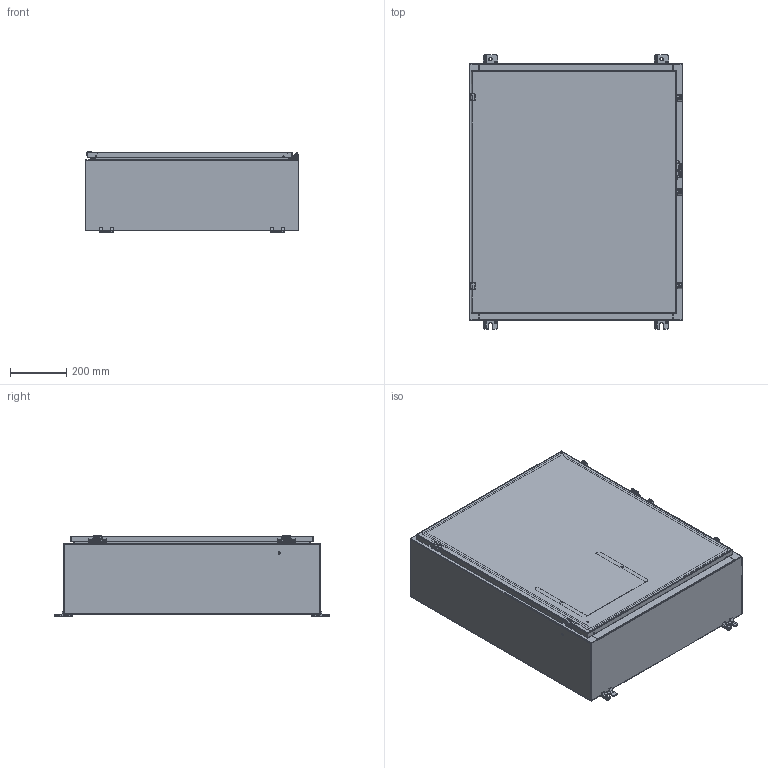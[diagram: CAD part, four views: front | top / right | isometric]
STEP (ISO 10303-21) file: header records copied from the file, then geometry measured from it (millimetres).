
FILE_DESCRIPTION((''),'2;1');
FILE_NAME('MODEL-309_ASM','2022-12-15T07:08:18',('johnh'),('SAGINAW CONTROL & ENGINEERING'),'CREO PARAMETRIC BY PTC INC, 2021284','CREO PARAMETRIC BY PTC INC, 2021284','');
FILE_SCHEMA(('AUTOMOTIVE_DESIGN { 1 0 10303 214 1 1 1 1 }'));
Length unit declared in the file: inch
Products named in the file (35): MODEL-309-BDY; MODEL-309-TP; MODEL-309-BTM; MODEL-309-DR; 100837; 100882; 111267; MODEL-309-DOOR-GASKET; 126391; 126391_ASM; 126393; 102483; 101226; 101376; 102140; 115117; MODEL-309-DOOR-ASSY_ASM; 128630; 100059; 128630_ASM; 100921; 128631; 128631_ASM; 101653; 121453; 120132_BASE; 120132_CLAMP; 120132_SCREW; 120132_SPRING; 120132_ASM; 120133; SUBPANEL; 100904; SUBPANEL-SUBASSEMBLY_ASM; MODEL-309_ASM
Assembly tree (71 placements, depth 4):
  MODEL-309_ASM
    MODEL-309-BDY
    MODEL-309-TP
    MODEL-309-BTM
    MODEL-309-DOOR-ASSY_ASM
      MODEL-309-DR
      100837  x3
      100882  x2
      111267
      MODEL-309-DOOR-GASKET
      126391_ASM  x2
        126391
      126393  x2
      102483  x7
      101226  x2
      101376  x2
      102140  x2
      115117
    128630_ASM  x2
      128630
      100059
    100921  x4
    128631_ASM  x2
      128631
      100059
    100837
    101653  x6
    121453
    120132_ASM  x3
      120132_BASE
      120132_CLAMP
      120132_SCREW
      120132_SPRING
    100882  x4
    120133
    SUBPANEL-SUBASSEMBLY_ASM
      SUBPANEL
      100904  x6
Bounding box: 762 x 977.9 x 288.11 mm (x, y, z)
Volume: 7168385.1 mm3; surface area: 6483806.3 mm2
Topology: 74 solids, 74 shells, 5462 faces, 14039 edges, 8823 vertices
Faces by surface type: plane 1988, cylinder 1438, bspline 1177, torus 578, cone 154, sphere 127
Entity records: 117661 total; most frequent: CARTESIAN_POINT 37008, ORIENTED_EDGE 11990, DIRECTION 11502, PRESENTATION_STYLE_ASSIGNMENT 6128, STYLED_ITEM 6128, CURVE_STYLE 5995, EDGE_CURVE 5995, AXIS2_PLACEMENT_3D 4248
